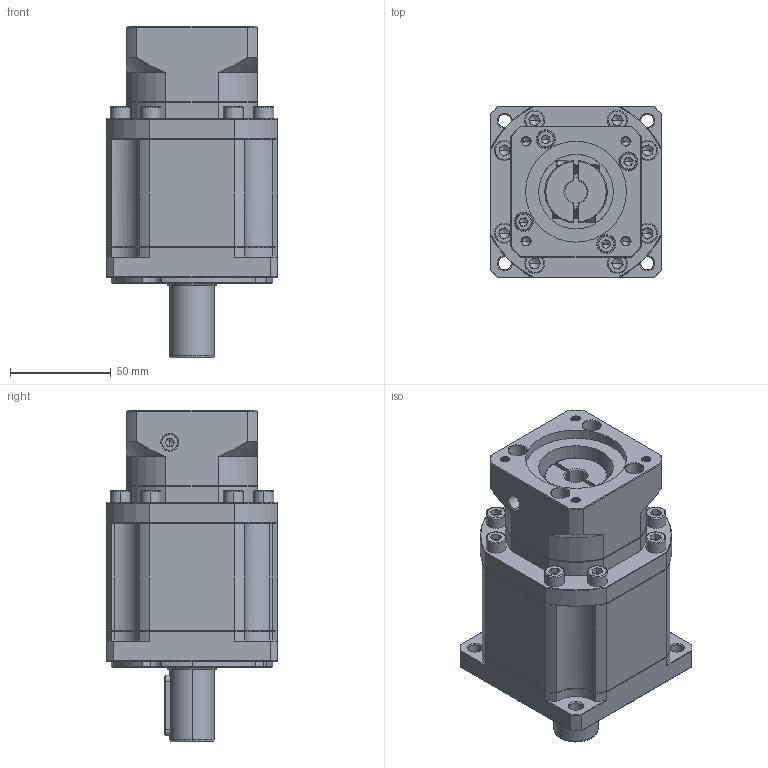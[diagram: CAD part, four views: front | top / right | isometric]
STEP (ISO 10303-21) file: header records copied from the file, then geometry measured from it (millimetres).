
FILE_DESCRIPTION (( 'STEP AP214' ), '1' );
FILE_NAME ('ZB090-D22-L3-P2-11-50-70-M5.step', '2023-08-18T13:37:47', ( '' ), ( '' ), 'SwSTEP 2.0', 'SolidWorks 2016', '' );
FILE_SCHEMA (( 'AUTOMOTIVE_DESIGN' ));
Length unit declared in the file: millimetre
Products named in the file (1): ZB090-D22-L3-P2-11-50-70-M5
Bounding box: 85 x 85 x 164.5 mm (x, y, z)
Volume: 666693.9 mm3; surface area: 82986.6 mm2
Topology: 6 solids, 6 shells, 2360 faces, 6273 edges, 4009 vertices
Faces by surface type: plane 1185, bspline 426, cylinder 406, cone 321, torus 22
Entity records: 125998 total; most frequent: CARTESIAN_POINT 44730, ORIENTED_EDGE 12454, DIRECTION 9932, EDGE_CURVE 6227, VERTEX_POINT 4009, VECTOR 3948, LINE 3948, AXIS2_PLACEMENT_3D 2992
